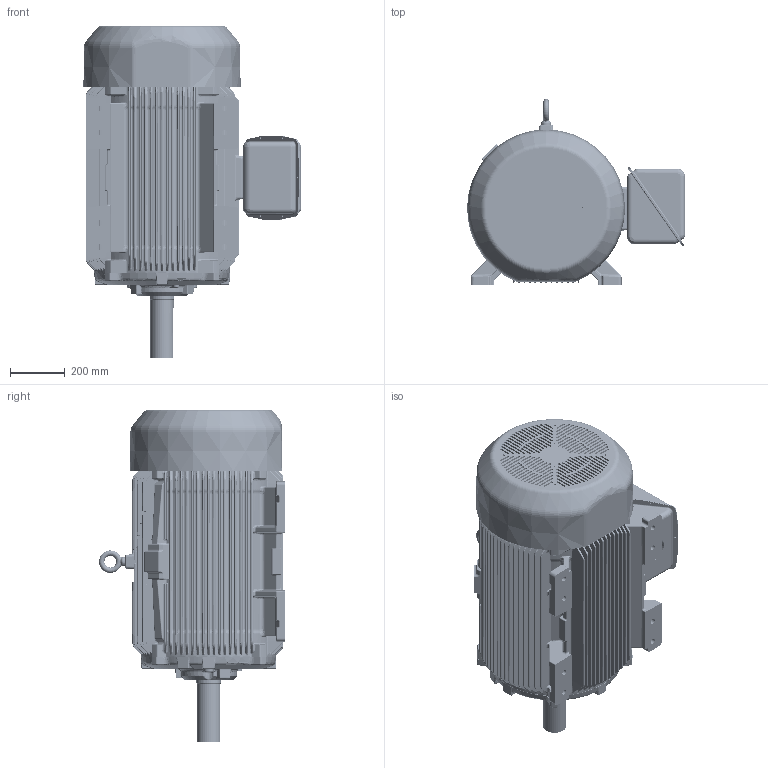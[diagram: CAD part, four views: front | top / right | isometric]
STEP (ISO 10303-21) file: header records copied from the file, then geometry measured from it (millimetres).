
FILE_DESCRIPTION((''),'2;1');
FILE_NAME('447_3D_ASM_ASM','2018-07-25T11:09:02',('EMD2341'),('Nidec Motor Corporation'),'CREO PARAMETRIC BY PTC INC, 2018020','CREO PARAMETRIC BY PTC INC, 2018020','');
FILE_SCHEMA(('CONFIG_CONTROL_DESIGN'));
Length unit declared in the file: inch
Products named in the file (10): 447_FOOTED_FRAME; 440_DE_BRKT; 0011046; 440_T; 440_STL_FCVR; 440_STL_GSK_OBB; 440_STL_OBB; 440_STL_GSK_OBC; 440_STL_OBC; 447_3D_ASM_ASM
Assembly tree (9 placements, depth 2):
  447_3D_ASM_ASM
    447_FOOTED_FRAME
    440_DE_BRKT
    0011046
    440_T
    440_STL_FCVR
    440_STL_GSK_OBB
    440_STL_OBB
    440_STL_GSK_OBC
    440_STL_OBC
Bounding box: 797.66 x 681.1 x 1215.9 mm (x, y, z)
Volume: 232443862.1 mm3; surface area: 6592663.6 mm2
Topology: 9 solids, 10 shells, 6122 faces, 13967 edges, 7985 vertices
Faces by surface type: bspline 2674, cylinder 1392, plane 1210, torus 376, extrusion 342, sphere 78, cone 50
Entity records: 279066 total; most frequent: CARTESIAN_POINT 159954, ORIENTED_EDGE 27928, DIRECTION 19691, EDGE_CURVE 13966, VERTEX_POINT 7985, AXIS2_PLACEMENT_3D 7410, EDGE_LOOP 6277, FACE_OUTER_BOUND 6122
